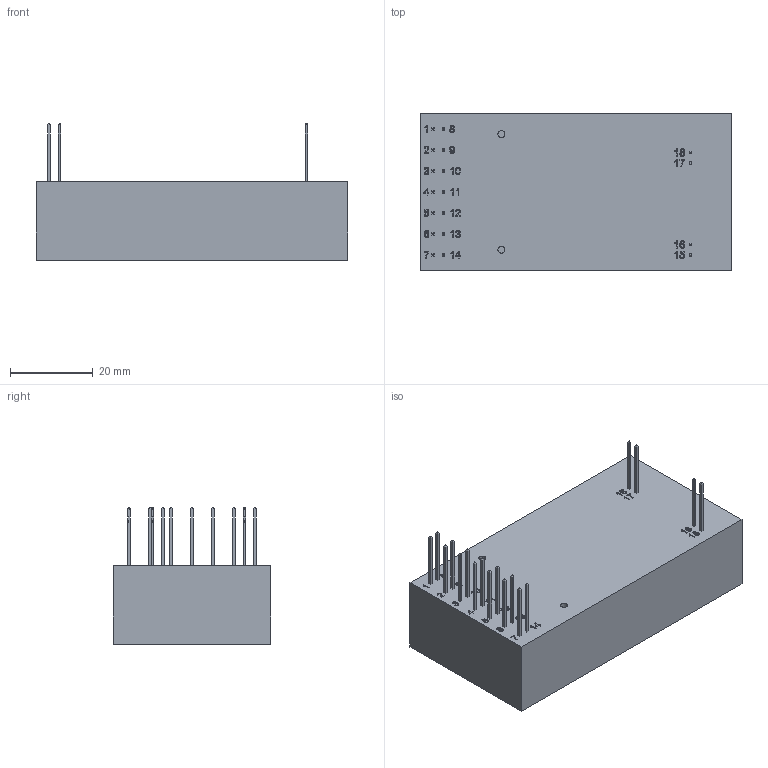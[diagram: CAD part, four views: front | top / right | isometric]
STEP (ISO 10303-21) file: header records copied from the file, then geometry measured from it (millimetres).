
FILE_DESCRIPTION((''),'2;1');
FILE_NAME('K:\UV\UV_ENG\OUTLINE_DRAWINGS\STEP-GENERATION-FILES\OL-056_revA_AA-I5-I10.stp','2012-01-03T08:27:56',('adrians'),(''),'Autodesk Inventor 2010','Autodesk Inventor 2010','');
FILE_SCHEMA(('CONFIG_CONTROL_DESIGN'));
Length unit declared in the file: inch
Products named in the file (1): OL-056_AA-I5-I10
Bounding box: 75.44 x 38.1 x 33.02 mm (x, y, z)
Volume: 54819.5 mm3; surface area: 10789.2 mm2
Topology: 1 solids, 1 shells, 518 faces, 1305 edges, 846 vertices
Faces by surface type: plane 329, bspline 189
Entity records: 16671 total; most frequent: CARTESIAN_POINT 5085, ORIENTED_EDGE 2574, DIRECTION 1605, EDGE_CURVE 1287, VECTOR 921, LINE 921, VERTEX_POINT 838, EDGE_LOOP 585
